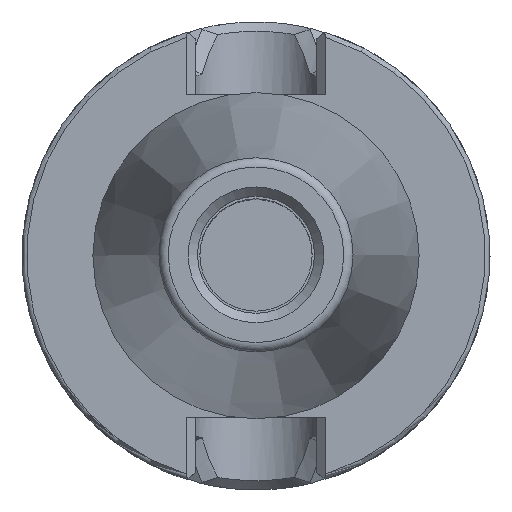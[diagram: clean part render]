
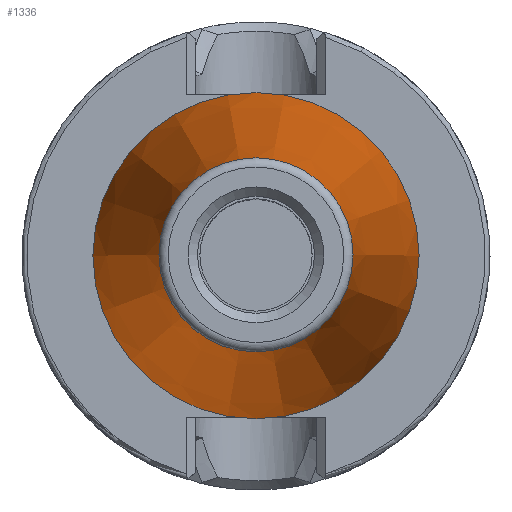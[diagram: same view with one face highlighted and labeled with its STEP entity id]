
A CAD part, top view. The second image highlights one B-rep face of the part: STEP entity #1336.
In plain terms, the highlighted conical face has half-angle 7.782 degrees and reference radius 27.675 mm.
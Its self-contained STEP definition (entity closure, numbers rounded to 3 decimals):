
#40=CONICAL_SURFACE('',#1463,27.675,0.136);
#237=FACE_OUTER_BOUND('',#312,.T.);
#312=EDGE_LOOP('',(#1225,#1226,#1227,#1228,#1229,#1230));
#372=LINE('',#3020,#427);
#427=VECTOR('',#1733,27.675);
#461=CIRCLE('',#1410,34.85);
#464=CIRCLE('',#1413,34.85);
#482=CIRCLE('',#1461,20.736);
#483=CIRCLE('',#1462,20.736);
#544=VERTEX_POINT('',#1980);
#545=VERTEX_POINT('',#1981);
#625=VERTEX_POINT('',#3014);
#626=VERTEX_POINT('',#3016);
#698=EDGE_CURVE('',#544,#545,#461,.T.);
#702=EDGE_CURVE('',#545,#544,#464,.T.);
#829=EDGE_CURVE('',#625,#626,#482,.T.);
#830=EDGE_CURVE('',#626,#625,#483,.T.);
#831=EDGE_CURVE('',#625,#545,#372,.T.);
#1225=ORIENTED_EDGE('',*,*,#830,.F.);
#1226=ORIENTED_EDGE('',*,*,#829,.F.);
#1227=ORIENTED_EDGE('',*,*,#831,.T.);
#1228=ORIENTED_EDGE('',*,*,#702,.T.);
#1229=ORIENTED_EDGE('',*,*,#698,.T.);
#1230=ORIENTED_EDGE('',*,*,#831,.F.);
#1336=ADVANCED_FACE('',(#237),#40,.T.);
#1410=AXIS2_PLACEMENT_3D('',#1982,#1593,#1594);
#1413=AXIS2_PLACEMENT_3D('',#1988,#1600,#1601);
#1461=AXIS2_PLACEMENT_3D('',#3017,#1727,#1728);
#1462=AXIS2_PLACEMENT_3D('',#3018,#1729,#1730);
#1463=AXIS2_PLACEMENT_3D('',#3019,#1731,#1732);
#1593=DIRECTION('center_axis',(0.,0.,1.));
#1594=DIRECTION('ref_axis',(1.,0.,0.));
#1600=DIRECTION('center_axis',(0.,0.,1.));
#1601=DIRECTION('ref_axis',(1.,0.,0.));
#1727=DIRECTION('center_axis',(0.,0.,
1.));
#1728=DIRECTION('ref_axis',(-1.,0.,0.));
#1729=DIRECTION('center_axis',(0.,0.,
1.));
#1730=DIRECTION('ref_axis',(-1.,0.,0.));
#1731=DIRECTION('center_axis',(0.,0.,-1.));
#1732=DIRECTION('ref_axis',(1.,0.,0.));
#1733=DIRECTION('',(-0.135,0.,-0.991));
#1980=CARTESIAN_POINT('',(34.85,0.,-105.));
#1981=CARTESIAN_POINT('',(-34.85,0.,-105.));
#1982=CARTESIAN_POINT('Origin',(0.,0.,-105.));
#1988=CARTESIAN_POINT('Origin',(0.,0.,-105.));
#3014=CARTESIAN_POINT('',(-20.736,0.,-1.729));
#3016=CARTESIAN_POINT('',(20.736,0.,-1.729));
#3017=CARTESIAN_POINT('Origin',(0.,0.,-1.729));
#3018=CARTESIAN_POINT('Origin',(0.,0.,-1.729));
#3019=CARTESIAN_POINT('Origin',(0.,0.,-52.5));
#3020=CARTESIAN_POINT('',(-27.675,0.,-52.5));
